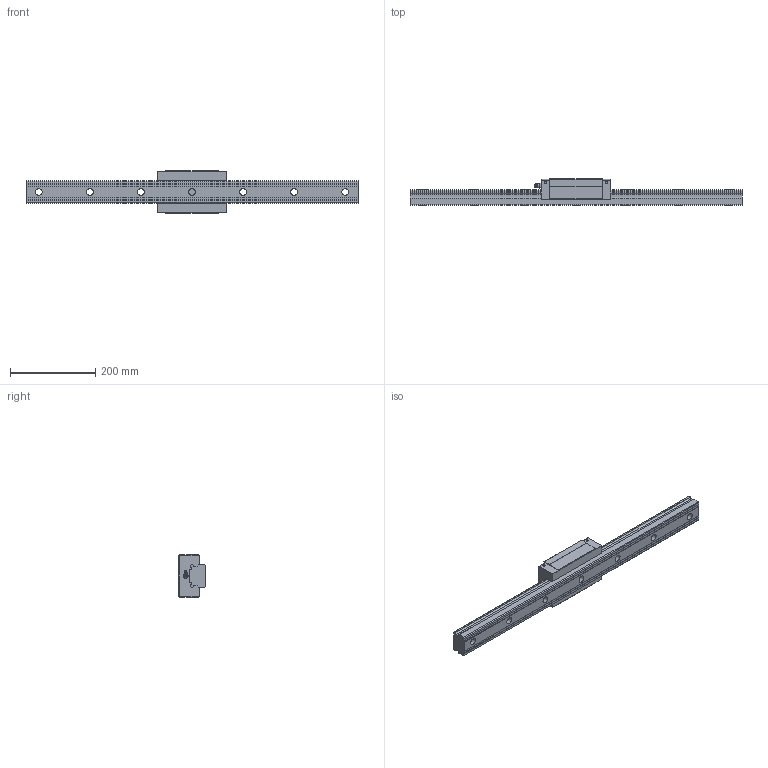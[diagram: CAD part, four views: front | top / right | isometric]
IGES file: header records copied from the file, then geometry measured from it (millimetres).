
Start section: Data from Parasolid IGES Translator 26.0.171, Copyright(c) 2006 Siemens PLM Software. All Rights Reserved.
Global section: file name: SVR55R1SS-780L_G30_0_B-PT18_308-35_0_0_0_1.igs; native system: By Siemens PLM Incorporated; preprocessor: XPlus GENERIC/IGES 26.0.171; author: Noname; organization: Noname; date: 20240517.070636; units: millimetre
Bounding box: 780 x 63 x 100 mm (x, y, z)
Surface area: 228176.7 mm2 (no closed solid volume)
Topology: 0 solids, 0 shells, 181 faces, 981 edges, 937 vertices
Faces by surface type: extrusion 100, revolution 81
